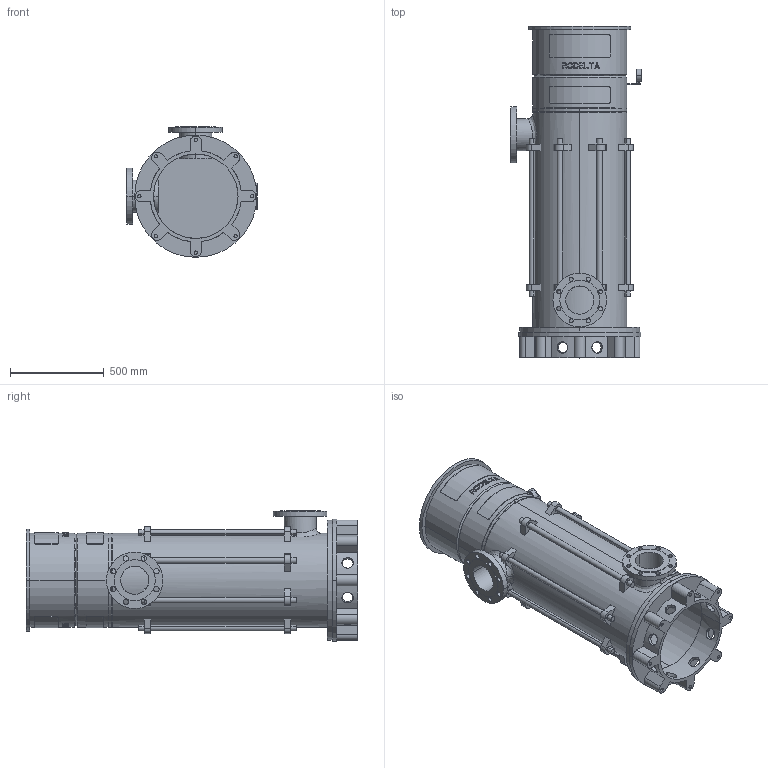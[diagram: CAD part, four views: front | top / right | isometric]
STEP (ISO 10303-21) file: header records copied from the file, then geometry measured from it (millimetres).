
FILE_DESCRIPTION((''),'2;1');
FILE_NAME('LS6_5TR_0GR_PN25_ABOVE_30KW','2025-10-24T10:46:31',('Lyritlocal'),(''),'CREO PARAMETRIC BY PTC INC, 2022014','CREO PARAMETRIC BY PTC INC, 2022014','');
FILE_SCHEMA(('CONFIG_CONTROL_DESIGN'));
Length unit declared in the file: millimetre
Products named in the file (1): LS6_5TR_0GR_PN25_ABOVE_30KW
Bounding box: 700 x 1765 x 695 mm (x, y, z)
Volume: 57088748 mm3; surface area: 7979083 mm2
Topology: 3 solids, 11 shells, 732 faces, 1891 edges, 1258 vertices
Faces by surface type: plane 438, cylinder 274, cone 12, bspline 8
Entity records: 24208 total; most frequent: CARTESIAN_POINT 6380, ORIENTED_EDGE 3750, DIRECTION 3537, EDGE_CURVE 1891, AXIS2_PLACEMENT_3D 1341, VERTEX_POINT 1258, EDGE_LOOP 893, VECTOR 855
